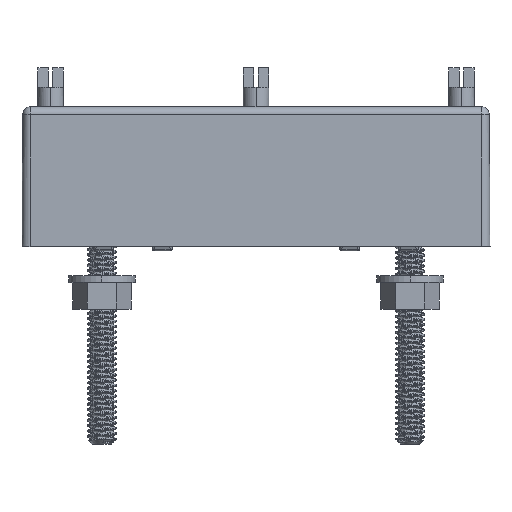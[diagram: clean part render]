
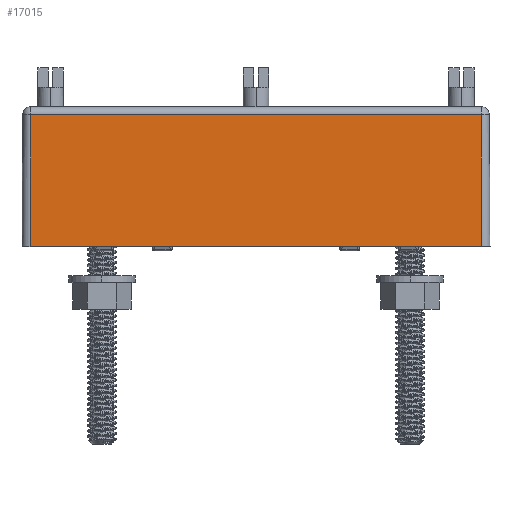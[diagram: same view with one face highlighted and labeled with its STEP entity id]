
A CAD part, top view. The second image highlights one B-rep face of the part: STEP entity #17015.
In plain terms, the highlighted planar face has unit normal (0, 0.006, 1).
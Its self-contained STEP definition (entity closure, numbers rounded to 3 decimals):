
#2572 = LINE ( 'NONE', #18402, #10120 ) ;
#3210 = CARTESIAN_POINT ( 'NONE',  ( 27.923, 9.167, 7.973 ) ) ;
#3666 = VECTOR ( 'NONE', #18539, 1000. ) ;
#5322 = VERTEX_POINT ( 'NONE', #29571 ) ;
#5515 = ORIENTED_EDGE ( 'NONE', *, *, #50805, .T. ) ;
#8390 = VECTOR ( 'NONE', #45920, 1000. ) ;
#9554 = AXIS2_PLACEMENT_3D ( 'NONE', #29198, #32573, #21682 ) ;
#10120 = VECTOR ( 'NONE', #30322, 1000. ) ;
#11140 = CARTESIAN_POINT ( 'NONE',  ( 27.834, 25.156, 7.884 ) ) ;
#17015 = ADVANCED_FACE ( 'NONE', ( #40843 ), #48608, .T. ) ;
#17716 = LINE ( 'NONE', #34533, #8390 ) ;
#18402 = CARTESIAN_POINT ( 'NONE',  ( -28.925, 8.85, 7.975 ) ) ;
#18539 = DIRECTION ( 'NONE',  ( -0.006, 1., -0.006 ) ) ;
#19794 = ORIENTED_EDGE ( 'NONE', *, *, #41563, .T. ) ;
#20869 = ORIENTED_EDGE ( 'NONE', *, *, #36880, .T. ) ;
#21682 = DIRECTION ( 'NONE',  ( 0., -1., 0.006 ) ) ;
#23707 = VERTEX_POINT ( 'NONE', #32735 ) ;
#27015 = CARTESIAN_POINT ( 'NONE',  ( -27.925, 8.844, 7.975 ) ) ;
#29198 = CARTESIAN_POINT ( 'NONE',  ( -28.925, 8.85, 7.975 ) ) ;
#29571 = CARTESIAN_POINT ( 'NONE',  ( -27.925, 8.85, 7.975 ) ) ;
#30322 = DIRECTION ( 'NONE',  ( 1., 0., 0. ) ) ;
#32573 = DIRECTION ( 'NONE',  ( 0., 0.006, 1. ) ) ;
#32602 = VECTOR ( 'NONE', #38915, 1000. ) ;
#32735 = CARTESIAN_POINT ( 'NONE',  ( -27.834, 25.156, 7.884 ) ) ;
#34533 = CARTESIAN_POINT ( 'NONE',  ( -28.925, 25.156, 7.884 ) ) ;
#35409 = EDGE_CURVE ( 'NONE', #47893, #23707, #17716, .T. ) ;
#35615 = ORIENTED_EDGE ( 'NONE', *, *, #35409, .T. ) ;
#36654 = EDGE_LOOP ( 'NONE', ( #5515, #35615, #19794, #20869 ) ) ;
#36880 = EDGE_CURVE ( 'NONE', #5322, #38176, #2572, .T. ) ;
#38176 = VERTEX_POINT ( 'NONE', #46106 ) ;
#38915 = DIRECTION ( 'NONE',  ( -0.006, -1., 0.006 ) ) ;
#40843 = FACE_OUTER_BOUND ( 'NONE', #36654, .T. ) ;
#41563 = EDGE_CURVE ( 'NONE', #23707, #5322, #46176, .T. ) ;
#45920 = DIRECTION ( 'NONE',  ( -1., 0., 0. ) ) ;
#46106 = CARTESIAN_POINT ( 'NONE',  ( 27.925, 8.85, 7.975 ) ) ;
#46176 = LINE ( 'NONE', #27015, #32602 ) ;
#47893 = VERTEX_POINT ( 'NONE', #11140 ) ;
#48608 = PLANE ( 'NONE',  #9554 ) ;
#50123 = LINE ( 'NONE', #3210, #3666 ) ;
#50805 = EDGE_CURVE ( 'NONE', #38176, #47893, #50123, .T. ) ;
